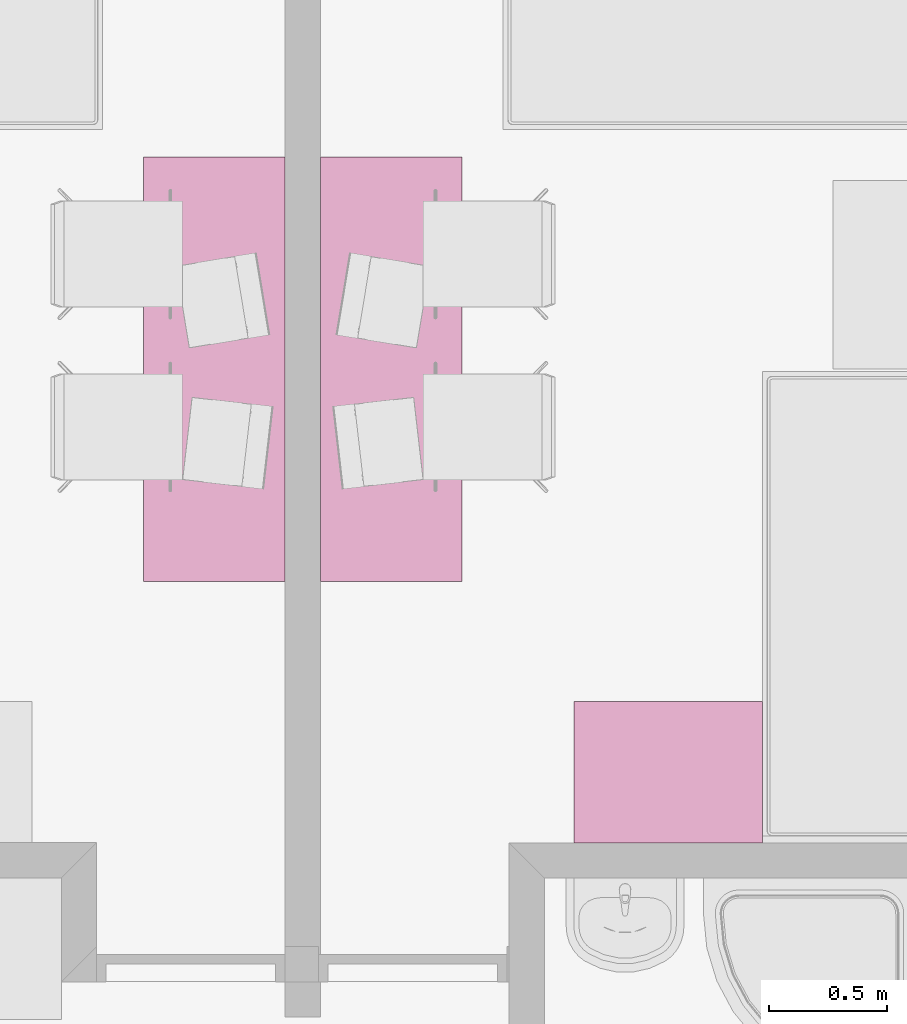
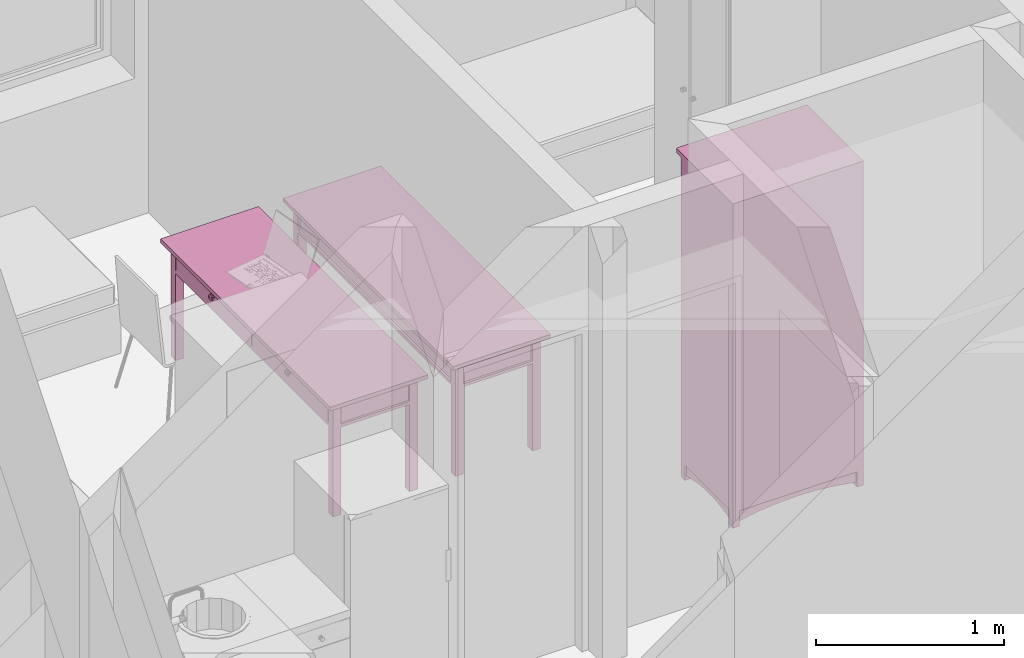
# One storey, part 140 of 172: 3 furnishings.
"""IFC2X3 building model written with IfcOpenShell, lengths in millimetres."""

from ifc_helpers import new_model, entity, si_unit, converted_unit, money_unit, direction, frame, origin_with_axes, place, context, subcontext, project, spatial, faceted_brep, source, transform, mapped, material, material_list, type_object, element, save


model = new_model("IFC2X3")

# Units and contexts
model_context = context("Model", 3, precision=1e-05, world=origin_with_axes(), true_north=direction((0.0, 1.0)))
body_context = subcontext(model_context, "Body", "Model", "MODEL_VIEW")
ifc_project = project(units=[si_unit("LENGTHUNIT", "METRE", prefix="MILLI"), si_unit("AREAUNIT", "SQUARE_METRE"), si_unit("VOLUMEUNIT", "CUBIC_METRE"), converted_unit("PLANEANGLEUNIT", "DEGREE", entity("IfcPlaneAngleMeasure", 0.0174532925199), si_unit("PLANEANGLEUNIT", "RADIAN"), dimensions=[0, 0, 0, 0, 0, 0, 0]), si_unit("SOLIDANGLEUNIT", "STERADIAN"), money_unit("USD"), converted_unit("TIMEUNIT", "Year", entity("IfcTimeMeasure", 31556926.0), si_unit("TIMEUNIT", "SECOND"), dimensions=[0, 0, 0, 0, 0, 0, 0]), si_unit("MASSUNIT", "GRAM"), si_unit("THERMODYNAMICTEMPERATUREUNIT", "DEGREE_CELSIUS"), si_unit("LUMINOUSINTENSITYUNIT", "LUMEN")], contexts=[model_context])

# Site, building, storey
site_placement = place(None, origin_with_axes())
site = spatial("IfcSite", under=ifc_project, at=site_placement, Name="Site", CompositionType="ELEMENT")
building_placement = place(site_placement, origin_with_axes())
building = spatial("IfcBuilding", under=site, at=building_placement, Name="Building", CompositionType="ELEMENT")
storey_placement = place(building_placement, frame((0.0, 0.0, 3200.0), z_axis=(0.0, 0.0, 1.0), x_axis=(1.0, 0.0, 0.0)))
storey = spatial("IfcBuildingStorey", under=building, at=storey_placement, Name="3KORRUS", CompositionType="ELEMENT", Elevation=3200.0)

# Furnishings
ifc_material = material(Name="Background")
ifc_material_list = material_list([ifc_material])
furnishing_element_type_1 = type_object("IfcFurnishingElementType", Name="Cupboard 19")
shared_shape_1 = source(origin_with_axes(), body_context, "Body", "Brep", [
    faceted_brep([(-780.0, 600.0, 120.0), (-780.0, 580.0, 120.0), (-780.0, 580.0, 2050.0), (-780.0, 600.0, 2050.0), (-20.0, 600.0, 120.0), (-20.0, 580.0, 120.0), (-20.0, 580.0, 2050.0), (-20.0, 600.0, 2050.0)], [[[0, 1, 2, 3]], [[0, 4, 5, 1]], [[1, 5, 6, 2]], [[3, 2, 6, 7]], [[4, 0, 3, 7]], [[5, 4, 7, 6]]]),
    faceted_brep([(0.0, 50.0, 100.0), (-20.0, 50.0, 100.0), (-20.0, 600.0, 100.0), (0.0, 600.0, 100.0), (0.0, 50.0, 2070.0), (-20.0, 50.0, 2070.0), (-20.0, 600.0, 2070.0), (0.0, 600.0, 2070.0)], [[[0, 1, 2, 3]], [[1, 0, 4, 5]], [[2, 1, 5, 6]], [[3, 2, 6, 7]], [[0, 3, 7, 4]], [[5, 4, 7, 6]]]),
    faceted_brep([(-780.0, 50.0, 100.0), (-800.0, 50.0, 100.0), (-800.0, 600.0, 100.0), (-780.0, 600.0, 100.0), (-780.0, 50.0, 2070.0), (-800.0, 50.0, 2070.0), (-800.0, 600.0, 2070.0), (-780.0, 600.0, 2070.0)], [[[0, 1, 2, 3]], [[1, 0, 4, 5]], [[2, 1, 5, 6]], [[3, 2, 6, 7]], [[0, 3, 7, 4]], [[5, 4, 7, 6]]]),
    faceted_brep([(-20.0, 50.0, 100.0), (-780.0, 50.0, 100.0), (-780.0, 600.0, 100.0), (-20.0, 600.0, 100.0), (-20.0, 50.0, 120.0), (-780.0, 50.0, 120.0), (-780.0, 600.0, 120.0), (-20.0, 600.0, 120.0)], [[[0, 1, 2, 3]], [[1, 0, 4, 5]], [[2, 1, 5, 6]], [[3, 2, 6, 7]], [[0, 3, 7, 4]], [[5, 4, 7, 6]]]),
    faceted_brep([(-20.0, 50.0, 2050.0), (-780.0, 50.0, 2050.0), (-780.0, 600.0, 2050.0), (-20.0, 600.0, 2050.0), (-20.0, 50.0, 2070.0), (-780.0, 50.0, 2070.0), (-780.0, 600.0, 2070.0), (-20.0, 600.0, 2070.0)], [[[0, 1, 2, 3]], [[1, 0, 4, 5]], [[2, 1, 5, 6]], [[3, 2, 6, 7]], [[0, 3, 7, 4]], [[5, 4, 7, 6]]]),
    faceted_brep([(0.0, 600.0, 2070.0), (0.0, 600.0, 2100.0), (0.0, 0.0, 2100.0), (0.0, 0.0, 2070.0), (-800.0, 600.0, 2070.0), (-800.0, 600.0, 2100.0), (-800.0, 0.0, 2100.0), (-800.0, 0.0, 2070.0)], [[[0, 1, 2, 3]], [[4, 5, 1, 0]], [[1, 5, 6, 2]], [[3, 2, 6, 7]], [[0, 3, 7, 4]], [[7, 6, 5, 4]]]),
    faceted_brep([(-760.0, 590.0, 25.0), (-640.962, 590.0, 45.8), (-640.962, 570.0, 45.8), (-760.0, 570.0, 25.0), (-760.0, 590.0, 100.0), (-40.0, 590.0, 100.0), (-40.0, 590.0, 25.0), (-159.038, 590.0, 45.8), (-279.23, 590.0, 58.32), (-400.0, 590.0, 62.5), (-520.77, 590.0, 58.32), (-520.77, 570.0, 58.32), (-400.0, 570.0, 62.5), (-279.23, 570.0, 58.32), (-159.038, 570.0, 45.8), (-40.0, 570.0, 25.0), (-40.0, 570.0, 100.0), (-760.0, 570.0, 100.0)], [[[0, 1, 2, 3]], [[0, 4, 5, 6, 7, 8, 9, 10, 1]], [[1, 10, 11, 2]], [[3, 2, 11, 12, 13, 14, 15, 16, 17]], [[4, 0, 3, 17]], [[5, 4, 17, 16]], [[6, 5, 16, 15]], [[7, 6, 15, 14]], [[8, 7, 14, 13]], [[9, 8, 13, 12]], [[10, 9, 12, 11]]]),
    faceted_brep([(-760.0, 80.0, 25.0), (-640.962, 80.0, 45.8), (-640.962, 60.0, 45.8), (-760.0, 60.0, 25.0), (-760.0, 80.0, 100.0), (-40.0, 80.0, 100.0), (-40.0, 80.0, 25.0), (-159.038, 80.0, 45.8), (-279.23, 80.0, 58.32), (-400.0, 80.0, 62.5), (-520.77, 80.0, 58.32), (-520.77, 60.0, 58.32), (-400.0, 60.0, 62.5), (-279.23, 60.0, 58.32), (-159.038, 60.0, 45.8), (-40.0, 60.0, 25.0), (-40.0, 60.0, 100.0), (-760.0, 60.0, 100.0)], [[[0, 1, 2, 3]], [[0, 4, 5, 6, 7, 8, 9, 10, 1]], [[1, 10, 11, 2]], [[3, 2, 11, 12, 13, 14, 15, 16, 17]], [[4, 0, 3, 17]], [[5, 4, 17, 16]], [[6, 5, 16, 15]], [[7, 6, 15, 14]], [[8, 7, 14, 13]], [[9, 8, 13, 12]], [[10, 9, 12, 11]]]),
    faceted_brep([(-790.0, 90.0, 25.0), (-790.0, 141.266, 38.072), (-770.0, 141.266, 38.072), (-770.0, 90.0, 25.0), (-790.0, 90.0, 100.0), (-790.0, 560.0, 100.0), (-790.0, 560.0, 25.0), (-790.0, 508.734, 38.072), (-790.0, 456.752, 47.92), (-790.0, 404.257, 54.508), (-790.0, 351.453, 57.808), (-790.0, 298.547, 57.808), (-790.0, 245.743, 54.508), (-790.0, 193.248, 47.92), (-770.0, 193.248, 47.92), (-770.0, 245.743, 54.508), (-770.0, 298.547, 57.808), (-770.0, 351.453, 57.808), (-770.0, 404.257, 54.508), (-770.0, 456.752, 47.92), (-770.0, 508.734, 38.072), (-770.0, 560.0, 25.0), (-770.0, 560.0, 100.0), (-770.0, 90.0, 100.0)], [[[0, 1, 2, 3]], [[0, 4, 5, 6, 7, 8, 9, 10, 11, 12, 13, 1]], [[1, 13, 14, 2]], [[3, 2, 14, 15, 16, 17, 18, 19, 20, 21, 22, 23]], [[4, 0, 3, 23]], [[5, 4, 23, 22]], [[6, 5, 22, 21]], [[7, 6, 21, 20]], [[8, 7, 20, 19]], [[9, 8, 19, 18]], [[10, 9, 18, 17]], [[11, 10, 17, 16]], [[12, 11, 16, 15]], [[13, 12, 15, 14]]]),
    faceted_brep([(-30.0, 90.0, 25.0), (-30.0, 141.266, 38.072), (-10.0, 141.266, 38.072), (-10.0, 90.0, 25.0), (-30.0, 90.0, 100.0), (-30.0, 560.0, 100.0), (-30.0, 560.0, 25.0), (-30.0, 508.734, 38.072), (-30.0, 456.752, 47.92), (-30.0, 404.257, 54.508), (-30.0, 351.453, 57.808), (-30.0, 298.547, 57.808), (-30.0, 245.743, 54.508), (-30.0, 193.248, 47.92), (-10.0, 193.248, 47.92), (-10.0, 245.743, 54.508), (-10.0, 298.547, 57.808), (-10.0, 351.453, 57.808), (-10.0, 404.257, 54.508), (-10.0, 456.752, 47.92), (-10.0, 508.734, 38.072), (-10.0, 560.0, 25.0), (-10.0, 560.0, 100.0), (-10.0, 90.0, 100.0)], [[[0, 1, 2, 3]], [[0, 4, 5, 6, 7, 8, 9, 10, 11, 12, 13, 1]], [[1, 13, 14, 2]], [[3, 2, 14, 15, 16, 17, 18, 19, 20, 21, 22, 23]], [[4, 0, 3, 23]], [[5, 4, 23, 22]], [[6, 5, 22, 21]], [[7, 6, 21, 20]], [[8, 7, 20, 19]], [[9, 8, 19, 18]], [[10, 9, 18, 17]], [[11, 10, 17, 16]], [[12, 11, 16, 15]], [[13, 12, 15, 14]]]),
    faceted_brep([(-760.0, 560.0, 0.0), (-760.0, 600.0, 0.0), (-760.0, 600.0, 100.0), (-760.0, 560.0, 100.0), (-800.0, 560.0, 0.0), (-800.0, 600.0, 0.0), (-800.0, 600.0, 100.0), (-800.0, 560.0, 100.0)], [[[0, 1, 2, 3]], [[0, 4, 5, 1]], [[1, 5, 6, 2]], [[3, 2, 6, 7]], [[4, 0, 3, 7]], [[5, 4, 7, 6]]]),
    faceted_brep([(0.0, 560.0, 0.0), (0.0, 600.0, 0.0), (0.0, 600.0, 100.0), (0.0, 560.0, 100.0), (-40.0, 560.0, 0.0), (-40.0, 600.0, 0.0), (-40.0, 600.0, 100.0), (-40.0, 560.0, 100.0)], [[[0, 1, 2, 3]], [[0, 4, 5, 1]], [[1, 5, 6, 2]], [[3, 2, 6, 7]], [[4, 0, 3, 7]], [[5, 4, 7, 6]]]),
    faceted_brep([(-760.0, 50.0, 0.0), (-760.0, 90.0, 0.0), (-760.0, 90.0, 100.0), (-760.0, 50.0, 100.0), (-800.0, 50.0, 0.0), (-800.0, 90.0, 0.0), (-800.0, 90.0, 100.0), (-800.0, 50.0, 100.0)], [[[0, 1, 2, 3]], [[0, 4, 5, 1]], [[1, 5, 6, 2]], [[3, 2, 6, 7]], [[4, 0, 3, 7]], [[5, 4, 7, 6]]]),
    faceted_brep([(0.0, 50.0, 0.0), (0.0, 90.0, 0.0), (0.0, 90.0, 100.0), (0.0, 50.0, 100.0), (-40.0, 50.0, 0.0), (-40.0, 90.0, 0.0), (-40.0, 90.0, 100.0), (-40.0, 50.0, 100.0)], [[[0, 1, 2, 3]], [[0, 4, 5, 1]], [[1, 5, 6, 2]], [[3, 2, 6, 7]], [[4, 0, 3, 7]], [[5, 4, 7, 6]]]),
    faceted_brep([(-780.0, 580.0, 587.5), (-780.0, 50.0, 587.5), (-780.0, 50.0, 607.5), (-780.0, 580.0, 607.5), (-20.0, 580.0, 587.5), (-20.0, 50.0, 587.5), (-20.0, 50.0, 607.5), (-20.0, 580.0, 607.5)], [[[0, 1, 2, 3]], [[0, 4, 5, 1]], [[1, 5, 6, 2]], [[3, 2, 6, 7]], [[4, 0, 3, 7]], [[5, 4, 7, 6]]]),
    faceted_brep([(-780.0, 580.0, 1075.0), (-780.0, 50.0, 1075.0), (-780.0, 50.0, 1095.0), (-780.0, 580.0, 1095.0), (-20.0, 580.0, 1075.0), (-20.0, 50.0, 1075.0), (-20.0, 50.0, 1095.0), (-20.0, 580.0, 1095.0)], [[[0, 1, 2, 3]], [[0, 4, 5, 1]], [[1, 5, 6, 2]], [[3, 2, 6, 7]], [[4, 0, 3, 7]], [[5, 4, 7, 6]]]),
    faceted_brep([(-780.0, 580.0, 1562.5), (-780.0, 50.0, 1562.5), (-780.0, 50.0, 1582.5), (-780.0, 580.0, 1582.5), (-20.0, 580.0, 1562.5), (-20.0, 50.0, 1562.5), (-20.0, 50.0, 1582.5), (-20.0, 580.0, 1582.5)], [[[0, 1, 2, 3]], [[0, 4, 5, 1]], [[1, 5, 6, 2]], [[3, 2, 6, 7]], [[4, 0, 3, 7]], [[5, 4, 7, 6]]]),
    faceted_brep([(-789.5, 50.0, 110.5), (-789.5, 50.0, 2059.5), (-400.5, 50.0, 2059.5), (-400.5, 50.0, 110.5), (-789.5, 40.0, 110.5), (-789.5, 40.0, 2059.5), (-400.5, 40.0, 2059.5), (-400.5, 40.0, 110.5), (-779.5, 30.0, 120.5), (-779.5, 30.0, 2049.5), (-410.5, 30.0, 2049.5), (-410.5, 30.0, 120.5)], [[[0, 1, 2, 3]], [[1, 0, 4, 5]], [[2, 1, 5, 6]], [[3, 2, 6, 7]], [[0, 3, 7, 4]], [[5, 4, 8, 9]], [[6, 5, 9, 10]], [[7, 6, 10, 11]], [[4, 7, 11, 8]], [[10, 9, 8, 11]]]),
    faceted_brep([(-399.5, 50.0, 110.5), (-399.5, 50.0, 2059.5), (-10.5, 50.0, 2059.5), (-10.5, 50.0, 110.5), (-399.5, 40.0, 110.5), (-399.5, 40.0, 2059.5), (-10.5, 40.0, 2059.5), (-10.5, 40.0, 110.5), (-389.5, 30.0, 120.5), (-389.5, 30.0, 2049.5), (-20.5, 30.0, 2049.5), (-20.5, 30.0, 120.5)], [[[0, 1, 2, 3]], [[1, 0, 4, 5]], [[2, 1, 5, 6]], [[3, 2, 6, 7]], [[0, 3, 7, 4]], [[5, 4, 8, 9]], [[6, 5, 9, 10]], [[7, 6, 10, 11]], [[4, 7, 11, 8]], [[10, 9, 8, 11]]]),
    faceted_brep([(-339.608, 30.0, 954.0), (-344.0, 30.0, 949.608), (-350.0, 30.0, 948.0), (-356.0, 30.0, 949.608), (-360.392, 30.0, 954.0), (-362.0, 30.0, 960.0), (-360.392, 30.0, 966.0), (-356.0, 30.0, 970.392), (-350.0, 30.0, 972.0), (-344.0, 30.0, 970.392), (-339.608, 30.0, 966.0), (-338.0, 30.0, 960.0), (-339.608, 5.0, 954.0), (-344.0, 5.0, 949.608), (-350.0, 5.0, 948.0), (-356.0, 5.0, 949.608), (-360.392, 5.0, 954.0), (-362.0, 5.0, 960.0), (-360.392, 5.0, 966.0), (-356.0, 5.0, 970.392), (-350.0, 5.0, 972.0), (-344.0, 5.0, 970.392), (-339.608, 5.0, 966.0), (-338.0, 5.0, 960.0)], [[[0, 1, 2, 3, 4, 5, 6, 7, 8, 9, 10, 11]], [[1, 0, 12, 13]], [[2, 1, 13, 14]], [[3, 2, 14, 15]], [[4, 3, 15, 16]], [[5, 4, 16, 17]], [[6, 5, 17, 18]], [[7, 6, 18, 19]], [[8, 7, 19, 20]], [[9, 8, 20, 21]], [[10, 9, 21, 22]], [[11, 10, 22, 23]], [[0, 11, 23, 12]], [[12, 23, 22, 21, 20, 19, 18, 17, 16, 15, 14, 13]]]),
    faceted_brep([(-460.392, 30.0, 954.0), (-462.0, 30.0, 960.0), (-460.392, 30.0, 966.0), (-456.0, 30.0, 970.392), (-450.0, 30.0, 972.0), (-444.0, 30.0, 970.392), (-439.608, 30.0, 966.0), (-438.0, 30.0, 960.0), (-439.608, 30.0, 954.0), (-444.0, 30.0, 949.608), (-450.0, 30.0, 948.0), (-456.0, 30.0, 949.608), (-460.392, 5.0, 954.0), (-462.0, 5.0, 960.0), (-460.392, 5.0, 966.0), (-456.0, 5.0, 970.392), (-450.0, 5.0, 972.0), (-444.0, 5.0, 970.392), (-439.608, 5.0, 966.0), (-438.0, 5.0, 960.0), (-439.608, 5.0, 954.0), (-444.0, 5.0, 949.608), (-450.0, 5.0, 948.0), (-456.0, 5.0, 949.608)], [[[0, 1, 2, 3, 4, 5, 6, 7, 8, 9, 10, 11]], [[0, 12, 13, 1]], [[1, 13, 14, 2]], [[2, 14, 15, 3]], [[3, 15, 16, 4]], [[4, 16, 17, 5]], [[5, 17, 18, 6]], [[6, 18, 19, 7]], [[7, 19, 20, 8]], [[8, 20, 21, 9]], [[9, 21, 22, 10]], [[10, 22, 23, 11]], [[11, 23, 12, 0]], [[12, 23, 22, 21, 20, 19, 18, 17, 16, 15, 14, 13]]]),
])
furnishing_1_placement = place(storey_placement, frame((4009.70329669, -8617.37850445, 0.0), z_axis=(0.0, 0.0, 1.0), x_axis=(-1.0, 0.0, 0.0)))
element("IfcFurnishingElement", 1, at=furnishing_1_placement, inside=storey, type_object=furnishing_element_type_1, material=ifc_material_list, Name="FU - 014", context=body_context, shape_type="MappedRepresentation", body=[
    mapped(shared_shape_1, transform((0.0, 0.0, 0.0))),
])
furnishing_element_type_2 = type_object("IfcFurnishingElementType", Name="Rectangular Table 01 19")
shared_shape_2 = source(origin_with_axes(), body_context, "Body", "Brep", [
    faceted_brep([(-90.0, 40.0, 0.0), (-90.0, 90.0, 0.0), (-40.0, 90.0, 0.0), (-40.0, 40.0, 0.0), (-90.0, 40.0, 725.0), (-90.0, 90.0, 725.0), (-40.0, 90.0, 725.0), (-40.0, 40.0, 725.0)], [[[0, 1, 2, 3]], [[0, 4, 5, 1]], [[1, 5, 6, 2]], [[2, 6, 7, 3]], [[3, 7, 4, 0]], [[7, 6, 5, 4]]]),
    faceted_brep([(-1760.0, 40.0, 0.0), (-1760.0, 90.0, 0.0), (-1710.0, 90.0, 0.0), (-1710.0, 40.0, 0.0), (-1760.0, 40.0, 725.0), (-1760.0, 90.0, 725.0), (-1710.0, 90.0, 725.0), (-1710.0, 40.0, 725.0)], [[[0, 1, 2, 3]], [[0, 4, 5, 1]], [[1, 5, 6, 2]], [[2, 6, 7, 3]], [[3, 7, 4, 0]], [[7, 6, 5, 4]]]),
    faceted_brep([(-90.0, 510.0, 0.0), (-90.0, 560.0, 0.0), (-40.0, 560.0, 0.0), (-40.0, 510.0, 0.0), (-90.0, 510.0, 725.0), (-90.0, 560.0, 725.0), (-40.0, 560.0, 725.0), (-40.0, 510.0, 725.0)], [[[0, 1, 2, 3]], [[0, 4, 5, 1]], [[1, 5, 6, 2]], [[2, 6, 7, 3]], [[3, 7, 4, 0]], [[7, 6, 5, 4]]]),
    faceted_brep([(-1760.0, 510.0, 0.0), (-1760.0, 560.0, 0.0), (-1710.0, 560.0, 0.0), (-1710.0, 510.0, 0.0), (-1760.0, 510.0, 725.0), (-1760.0, 560.0, 725.0), (-1710.0, 560.0, 725.0), (-1710.0, 510.0, 725.0)], [[[0, 1, 2, 3]], [[0, 4, 5, 1]], [[1, 5, 6, 2]], [[2, 6, 7, 3]], [[3, 7, 4, 0]], [[7, 6, 5, 4]]]),
    faceted_brep([(-1760.0, 40.0, 565.0), (-1760.0, 560.0, 565.0), (-40.0, 560.0, 565.0), (-40.0, 40.0, 565.0), (-1760.0, 40.0, 585.0), (-1760.0, 560.0, 585.0), (-40.0, 560.0, 585.0), (-40.0, 40.0, 585.0)], [[[0, 1, 2, 3]], [[0, 4, 5, 1]], [[1, 5, 6, 2]], [[2, 6, 7, 3]], [[3, 7, 4, 0]], [[7, 6, 5, 4]]]),
    faceted_brep([(-1710.0, 52.5, 585.0), (-1710.0, 77.5, 585.0), (-90.0, 77.5, 585.0), (-90.0, 52.5, 585.0), (-1710.0, 52.5, 745.0), (-1710.0, 77.5, 745.0), (-90.0, 77.5, 745.0), (-90.0, 52.5, 745.0)], [[[0, 1, 2, 3]], [[0, 4, 5, 1]], [[1, 5, 6, 2]], [[2, 6, 7, 3]], [[3, 7, 4, 0]], [[7, 6, 5, 4]]]),
    faceted_brep([(-77.5, 90.0, 585.0), (-77.5, 510.0, 585.0), (-52.5, 510.0, 585.0), (-52.5, 90.0, 585.0), (-77.5, 90.0, 745.0), (-77.5, 510.0, 745.0), (-52.5, 510.0, 745.0), (-52.5, 90.0, 745.0)], [[[0, 1, 2, 3]], [[0, 4, 5, 1]], [[1, 5, 6, 2]], [[2, 6, 7, 3]], [[3, 7, 4, 0]], [[7, 6, 5, 4]]]),
    faceted_brep([(-90.0, 547.5, 585.0), (-90.0, 522.5, 585.0), (-1710.0, 522.5, 585.0), (-1710.0, 547.5, 585.0), (-90.0, 547.5, 745.0), (-90.0, 522.5, 745.0), (-1710.0, 522.5, 745.0), (-1710.0, 547.5, 745.0)], [[[0, 1, 2, 3]], [[0, 4, 5, 1]], [[1, 5, 6, 2]], [[2, 6, 7, 3]], [[3, 7, 4, 0]], [[7, 6, 5, 4]]]),
    faceted_brep([(-1722.5, 510.0, 585.0), (-1722.5, 90.0, 585.0), (-1747.5, 90.0, 585.0), (-1747.5, 510.0, 585.0), (-1722.5, 510.0, 745.0), (-1722.5, 90.0, 745.0), (-1747.5, 90.0, 745.0), (-1747.5, 510.0, 745.0)], [[[0, 1, 2, 3]], [[0, 4, 5, 1]], [[1, 5, 6, 2]], [[2, 6, 7, 3]], [[3, 7, 4, 0]], [[7, 6, 5, 4]]]),
    faceted_brep([(-897.5, 40.0, 585.0), (-897.5, 60.0, 585.0), (-95.0, 60.0, 585.0), (-95.0, 40.0, 585.0), (-897.5, 40.0, 745.0), (-897.5, 60.0, 745.0), (-95.0, 60.0, 745.0), (-95.0, 40.0, 745.0)], [[[0, 1, 2, 3]], [[0, 4, 5, 1]], [[1, 5, 6, 2]], [[2, 6, 7, 3]], [[3, 7, 4, 0]], [[7, 6, 5, 4]]]),
    faceted_brep([(-1705.0, 40.0, 585.0), (-1705.0, 60.0, 585.0), (-902.5, 60.0, 585.0), (-902.5, 40.0, 585.0), (-1705.0, 40.0, 745.0), (-1705.0, 60.0, 745.0), (-902.5, 60.0, 745.0), (-902.5, 40.0, 745.0)], [[[0, 1, 2, 3]], [[0, 4, 5, 1]], [[1, 5, 6, 2]], [[2, 6, 7, 3]], [[3, 7, 4, 0]], [[7, 6, 5, 4]]]),
    faceted_brep([(-504.91, 40.0, 660.0), (-506.25, 40.0, 665.0), (-504.91, 40.0, 670.0), (-501.25, 40.0, 673.66), (-496.25, 40.0, 675.0), (-491.25, 40.0, 673.66), (-487.59, 40.0, 670.0), (-486.25, 40.0, 665.0), (-487.59, 40.0, 660.0), (-491.25, 40.0, 656.34), (-496.25, 40.0, 655.0), (-501.25, 40.0, 656.34), (-504.91, 25.0, 660.0), (-506.25, 25.0, 665.0), (-504.91, 25.0, 670.0), (-501.25, 25.0, 673.66), (-496.25, 25.0, 675.0), (-491.25, 25.0, 673.66), (-487.59, 25.0, 670.0), (-486.25, 25.0, 665.0), (-487.59, 25.0, 660.0), (-491.25, 25.0, 656.34), (-496.25, 25.0, 655.0), (-501.25, 25.0, 656.34)], [[[0, 1, 2, 3, 4, 5, 6, 7, 8, 9, 10, 11]], [[0, 12, 13, 1]], [[1, 13, 14, 2]], [[2, 14, 15, 3]], [[3, 15, 16, 4]], [[4, 16, 17, 5]], [[5, 17, 18, 6]], [[6, 18, 19, 7]], [[7, 19, 20, 8]], [[8, 20, 21, 9]], [[9, 21, 22, 10]], [[10, 22, 23, 11]], [[11, 23, 12, 0]], [[12, 23, 22, 21, 20, 19, 18, 17, 16, 15, 14, 13]]]),
    faceted_brep([(-506.25, 12.01, 665.0), (-504.91, 12.01, 660.0), (-496.25, 10.0, 665.0), (-513.571, 17.5, 665.0), (-511.25, 17.5, 656.34), (-501.25, 12.01, 656.34), (-504.91, 12.01, 670.0), (-516.25, 25.0, 665.0), (-513.571, 25.0, 655.0), (-504.91, 17.5, 650.0), (-511.25, 17.5, 673.66), (-496.25, 12.01, 655.0), (-501.25, 12.01, 673.66), (-513.571, 25.0, 675.0), (-506.25, 25.0, 682.321), (-496.25, 25.0, 685.0), (-486.25, 25.0, 682.321), (-478.929, 25.0, 675.0), (-476.25, 25.0, 665.0), (-478.929, 25.0, 655.0), (-486.25, 25.0, 647.679), (-496.25, 25.0, 645.0), (-506.25, 25.0, 647.679), (-496.25, 17.5, 647.679), (-504.91, 17.5, 680.0), (-491.25, 12.01, 656.34), (-496.25, 12.01, 675.0), (-496.25, 17.5, 682.321), (-487.59, 17.5, 680.0), (-481.25, 17.5, 673.66), (-478.929, 17.5, 665.0), (-481.25, 17.5, 656.34), (-487.59, 17.5, 650.0), (-487.59, 12.01, 660.0), (-491.25, 12.01, 673.66), (-487.59, 12.01, 670.0), (-486.25, 12.01, 665.0)], [[[0, 1, 2]], [[3, 4, 1, 0]], [[1, 5, 2]], [[6, 0, 2]], [[7, 8, 4, 3]], [[4, 9, 5, 1]], [[10, 3, 0, 6]], [[5, 11, 2]], [[12, 6, 2]], [[8, 7, 13, 14, 15, 16, 17, 18, 19, 20, 21, 22]], [[8, 22, 9, 4]], [[13, 7, 3, 10]], [[9, 23, 11, 5]], [[24, 10, 6, 12]], [[11, 25, 2]], [[26, 12, 2]], [[14, 13, 10, 24]], [[15, 14, 24, 27]], [[16, 15, 27, 28]], [[17, 16, 28, 29]], [[18, 17, 29, 30]], [[19, 18, 30, 31]], [[20, 19, 31, 32]], [[21, 20, 32, 23]], [[22, 21, 23, 9]], [[23, 32, 25, 11]], [[27, 24, 12, 26]], [[25, 33, 2]], [[34, 26, 2]], [[28, 27, 26, 34]], [[29, 28, 34, 35]], [[30, 29, 35, 36]], [[31, 30, 36, 33]], [[32, 31, 33, 25]], [[33, 36, 2]], [[35, 34, 2]], [[36, 35, 2]]]),
    faceted_brep([(-1312.41, 40.0, 660.0), (-1313.75, 40.0, 665.0), (-1312.41, 40.0, 670.0), (-1308.75, 40.0, 673.66), (-1303.75, 40.0, 675.0), (-1298.75, 40.0, 673.66), (-1295.09, 40.0, 670.0), (-1293.75, 40.0, 665.0), (-1295.09, 40.0, 660.0), (-1298.75, 40.0, 656.34), (-1303.75, 40.0, 655.0), (-1308.75, 40.0, 656.34), (-1312.41, 25.0, 660.0), (-1313.75, 25.0, 665.0), (-1312.41, 25.0, 670.0), (-1308.75, 25.0, 673.66), (-1303.75, 25.0, 675.0), (-1298.75, 25.0, 673.66), (-1295.09, 25.0, 670.0), (-1293.75, 25.0, 665.0), (-1295.09, 25.0, 660.0), (-1298.75, 25.0, 656.34), (-1303.75, 25.0, 655.0), (-1308.75, 25.0, 656.34)], [[[0, 1, 2, 3, 4, 5, 6, 7, 8, 9, 10, 11]], [[0, 12, 13, 1]], [[1, 13, 14, 2]], [[2, 14, 15, 3]], [[3, 15, 16, 4]], [[4, 16, 17, 5]], [[5, 17, 18, 6]], [[6, 18, 19, 7]], [[7, 19, 20, 8]], [[8, 20, 21, 9]], [[9, 21, 22, 10]], [[10, 22, 23, 11]], [[11, 23, 12, 0]], [[12, 23, 22, 21, 20, 19, 18, 17, 16, 15, 14, 13]]]),
    faceted_brep([(-1313.75, 12.01, 665.0), (-1312.41, 12.01, 660.0), (-1303.75, 10.0, 665.0), (-1321.071, 17.5, 665.0), (-1318.75, 17.5, 656.34), (-1308.75, 12.01, 656.34), (-1312.41, 12.01, 670.0), (-1323.75, 25.0, 665.0), (-1321.071, 25.0, 655.0), (-1312.41, 17.5, 650.0), (-1318.75, 17.5, 673.66), (-1303.75, 12.01, 655.0), (-1308.75, 12.01, 673.66), (-1321.071, 25.0, 675.0), (-1313.75, 25.0, 682.321), (-1303.75, 25.0, 685.0), (-1293.75, 25.0, 682.321), (-1286.429, 25.0, 675.0), (-1283.75, 25.0, 665.0), (-1286.429, 25.0, 655.0), (-1293.75, 25.0, 647.679), (-1303.75, 25.0, 645.0), (-1313.75, 25.0, 647.679), (-1303.75, 17.5, 647.679), (-1312.41, 17.5, 680.0), (-1298.75, 12.01, 656.34), (-1303.75, 12.01, 675.0), (-1303.75, 17.5, 682.321), (-1295.09, 17.5, 680.0), (-1288.75, 17.5, 673.66), (-1286.429, 17.5, 665.0), (-1288.75, 17.5, 656.34), (-1295.09, 17.5, 650.0), (-1295.09, 12.01, 660.0), (-1298.75, 12.01, 673.66), (-1295.09, 12.01, 670.0), (-1293.75, 12.01, 665.0)], [[[0, 1, 2]], [[3, 4, 1, 0]], [[1, 5, 2]], [[6, 0, 2]], [[7, 8, 4, 3]], [[4, 9, 5, 1]], [[10, 3, 0, 6]], [[5, 11, 2]], [[12, 6, 2]], [[8, 7, 13, 14, 15, 16, 17, 18, 19, 20, 21, 22]], [[8, 22, 9, 4]], [[13, 7, 3, 10]], [[9, 23, 11, 5]], [[24, 10, 6, 12]], [[11, 25, 2]], [[26, 12, 2]], [[14, 13, 10, 24]], [[15, 14, 24, 27]], [[16, 15, 27, 28]], [[17, 16, 28, 29]], [[18, 17, 29, 30]], [[19, 18, 30, 31]], [[20, 19, 31, 32]], [[21, 20, 32, 23]], [[22, 21, 23, 9]], [[23, 32, 25, 11]], [[27, 24, 12, 26]], [[25, 33, 2]], [[34, 26, 2]], [[28, 27, 26, 34]], [[29, 28, 34, 35]], [[30, 29, 35, 36]], [[31, 30, 36, 33]], [[32, 31, 33, 25]], [[33, 36, 2]], [[35, 34, 2]], [[36, 35, 2]]]),
    faceted_brep([(-1800.0, 0.0, 725.0), (-1800.0, 600.0, 725.0), (0.0, 600.0, 725.0), (0.0, 0.0, 725.0), (-1800.0, 0.0, 750.0), (-1800.0, 600.0, 750.0), (0.0, 600.0, 750.0), (0.0, 0.0, 750.0)], [[[0, 1, 2, 3]], [[0, 4, 5, 1]], [[1, 5, 6, 2]], [[2, 6, 7, 3]], [[3, 7, 4, 0]], [[7, 6, 5, 4]]]),
])
furnishing_2_placement = place(storey_placement, frame((3535.15011628, -6307.26955348, 0.0), z_axis=(0.0, 0.0, 1.0), x_axis=(0.0, 1.0, 0.0)))
element("IfcFurnishingElement", 2, at=furnishing_2_placement, inside=storey, type_object=furnishing_element_type_2, material=ifc_material_list, Name="FU - 011", context=body_context, shape_type="MappedRepresentation", body=[
    mapped(shared_shape_2, transform((0.0, 0.0, 0.0))),
])
shared_shape_3 = source(origin_with_axes(), body_context, "Body", "Brep", [
    faceted_brep([(90.0, 40.0, 0.0), (40.0, 40.0, 0.0), (40.0, 90.0, 0.0), (90.0, 90.0, 0.0), (90.0, 40.0, 725.0), (40.0, 40.0, 725.0), (40.0, 90.0, 725.0), (90.0, 90.0, 725.0)], [[[0, 1, 2, 3]], [[1, 0, 4, 5]], [[2, 1, 5, 6]], [[3, 2, 6, 7]], [[0, 3, 7, 4]], [[5, 4, 7, 6]]]),
    faceted_brep([(1760.0, 40.0, 0.0), (1710.0, 40.0, 0.0), (1710.0, 90.0, 0.0), (1760.0, 90.0, 0.0), (1760.0, 40.0, 725.0), (1710.0, 40.0, 725.0), (1710.0, 90.0, 725.0), (1760.0, 90.0, 725.0)], [[[0, 1, 2, 3]], [[1, 0, 4, 5]], [[2, 1, 5, 6]], [[3, 2, 6, 7]], [[0, 3, 7, 4]], [[5, 4, 7, 6]]]),
    faceted_brep([(90.0, 510.0, 0.0), (40.0, 510.0, 0.0), (40.0, 560.0, 0.0), (90.0, 560.0, 0.0), (90.0, 510.0, 725.0), (40.0, 510.0, 725.0), (40.0, 560.0, 725.0), (90.0, 560.0, 725.0)], [[[0, 1, 2, 3]], [[1, 0, 4, 5]], [[2, 1, 5, 6]], [[3, 2, 6, 7]], [[0, 3, 7, 4]], [[5, 4, 7, 6]]]),
    faceted_brep([(1760.0, 510.0, 0.0), (1710.0, 510.0, 0.0), (1710.0, 560.0, 0.0), (1760.0, 560.0, 0.0), (1760.0, 510.0, 725.0), (1710.0, 510.0, 725.0), (1710.0, 560.0, 725.0), (1760.0, 560.0, 725.0)], [[[0, 1, 2, 3]], [[1, 0, 4, 5]], [[2, 1, 5, 6]], [[3, 2, 6, 7]], [[0, 3, 7, 4]], [[5, 4, 7, 6]]]),
    faceted_brep([(1760.0, 40.0, 565.0), (40.0, 40.0, 565.0), (40.0, 560.0, 565.0), (1760.0, 560.0, 565.0), (1760.0, 40.0, 585.0), (40.0, 40.0, 585.0), (40.0, 560.0, 585.0), (1760.0, 560.0, 585.0)], [[[0, 1, 2, 3]], [[1, 0, 4, 5]], [[2, 1, 5, 6]], [[3, 2, 6, 7]], [[0, 3, 7, 4]], [[5, 4, 7, 6]]]),
    faceted_brep([(1710.0, 52.5, 585.0), (90.0, 52.5, 585.0), (90.0, 77.5, 585.0), (1710.0, 77.5, 585.0), (1710.0, 52.5, 745.0), (90.0, 52.5, 745.0), (90.0, 77.5, 745.0), (1710.0, 77.5, 745.0)], [[[0, 1, 2, 3]], [[1, 0, 4, 5]], [[2, 1, 5, 6]], [[3, 2, 6, 7]], [[0, 3, 7, 4]], [[5, 4, 7, 6]]]),
    faceted_brep([(77.5, 90.0, 585.0), (52.5, 90.0, 585.0), (52.5, 510.0, 585.0), (77.5, 510.0, 585.0), (77.5, 90.0, 745.0), (52.5, 90.0, 745.0), (52.5, 510.0, 745.0), (77.5, 510.0, 745.0)], [[[0, 1, 2, 3]], [[1, 0, 4, 5]], [[2, 1, 5, 6]], [[3, 2, 6, 7]], [[0, 3, 7, 4]], [[5, 4, 7, 6]]]),
    faceted_brep([(90.0, 547.5, 585.0), (1710.0, 547.5, 585.0), (1710.0, 522.5, 585.0), (90.0, 522.5, 585.0), (90.0, 547.5, 745.0), (1710.0, 547.5, 745.0), (1710.0, 522.5, 745.0), (90.0, 522.5, 745.0)], [[[0, 1, 2, 3]], [[1, 0, 4, 5]], [[2, 1, 5, 6]], [[3, 2, 6, 7]], [[0, 3, 7, 4]], [[5, 4, 7, 6]]]),
    faceted_brep([(1722.5, 510.0, 585.0), (1747.5, 510.0, 585.0), (1747.5, 90.0, 585.0), (1722.5, 90.0, 585.0), (1722.5, 510.0, 745.0), (1747.5, 510.0, 745.0), (1747.5, 90.0, 745.0), (1722.5, 90.0, 745.0)], [[[0, 1, 2, 3]], [[1, 0, 4, 5]], [[2, 1, 5, 6]], [[3, 2, 6, 7]], [[0, 3, 7, 4]], [[5, 4, 7, 6]]]),
    faceted_brep([(897.5, 40.0, 585.0), (95.0, 40.0, 585.0), (95.0, 60.0, 585.0), (897.5, 60.0, 585.0), (897.5, 40.0, 745.0), (95.0, 40.0, 745.0), (95.0, 60.0, 745.0), (897.5, 60.0, 745.0)], [[[0, 1, 2, 3]], [[1, 0, 4, 5]], [[2, 1, 5, 6]], [[3, 2, 6, 7]], [[0, 3, 7, 4]], [[5, 4, 7, 6]]]),
    faceted_brep([(1705.0, 40.0, 585.0), (902.5, 40.0, 585.0), (902.5, 60.0, 585.0), (1705.0, 60.0, 585.0), (1705.0, 40.0, 745.0), (902.5, 40.0, 745.0), (902.5, 60.0, 745.0), (1705.0, 60.0, 745.0)], [[[0, 1, 2, 3]], [[1, 0, 4, 5]], [[2, 1, 5, 6]], [[3, 2, 6, 7]], [[0, 3, 7, 4]], [[5, 4, 7, 6]]]),
    faceted_brep([(504.91, 40.0, 660.0), (501.25, 40.0, 656.34), (496.25, 40.0, 655.0), (491.25, 40.0, 656.34), (487.59, 40.0, 660.0), (486.25, 40.0, 665.0), (487.59, 40.0, 670.0), (491.25, 40.0, 673.66), (496.25, 40.0, 675.0), (501.25, 40.0, 673.66), (504.91, 40.0, 670.0), (506.25, 40.0, 665.0), (504.91, 25.0, 660.0), (501.25, 25.0, 656.34), (496.25, 25.0, 655.0), (491.25, 25.0, 656.34), (487.59, 25.0, 660.0), (486.25, 25.0, 665.0), (487.59, 25.0, 670.0), (491.25, 25.0, 673.66), (496.25, 25.0, 675.0), (501.25, 25.0, 673.66), (504.91, 25.0, 670.0), (506.25, 25.0, 665.0)], [[[0, 1, 2, 3, 4, 5, 6, 7, 8, 9, 10, 11]], [[1, 0, 12, 13]], [[2, 1, 13, 14]], [[3, 2, 14, 15]], [[4, 3, 15, 16]], [[5, 4, 16, 17]], [[6, 5, 17, 18]], [[7, 6, 18, 19]], [[8, 7, 19, 20]], [[9, 8, 20, 21]], [[10, 9, 21, 22]], [[11, 10, 22, 23]], [[0, 11, 23, 12]], [[12, 23, 22, 21, 20, 19, 18, 17, 16, 15, 14, 13]]]),
    faceted_brep([(506.25, 12.01, 665.0), (496.25, 10.0, 665.0), (504.91, 12.01, 660.0), (504.91, 12.01, 670.0), (501.25, 12.01, 656.34), (513.571, 17.5, 665.0), (511.25, 17.5, 656.34), (501.25, 12.01, 673.66), (511.25, 17.5, 673.66), (496.25, 12.01, 655.0), (504.91, 17.5, 650.0), (516.25, 25.0, 665.0), (513.571, 25.0, 655.0), (496.25, 12.01, 675.0), (504.91, 17.5, 680.0), (513.571, 25.0, 675.0), (491.25, 12.01, 656.34), (496.25, 17.5, 647.679), (506.25, 25.0, 647.679), (496.25, 25.0, 645.0), (486.25, 25.0, 647.679), (478.929, 25.0, 655.0), (476.25, 25.0, 665.0), (478.929, 25.0, 675.0), (486.25, 25.0, 682.321), (496.25, 25.0, 685.0), (506.25, 25.0, 682.321), (491.25, 12.01, 673.66), (496.25, 17.5, 682.321), (487.59, 12.01, 660.0), (487.59, 17.5, 650.0), (481.25, 17.5, 656.34), (478.929, 17.5, 665.0), (481.25, 17.5, 673.66), (487.59, 17.5, 680.0), (487.59, 12.01, 670.0), (486.25, 12.01, 665.0)], [[[0, 1, 2]], [[3, 1, 0]], [[2, 1, 4]], [[5, 0, 2, 6]], [[7, 1, 3]], [[8, 3, 0, 5]], [[4, 1, 9]], [[6, 2, 4, 10]], [[11, 5, 6, 12]], [[13, 1, 7]], [[14, 7, 3, 8]], [[15, 8, 5, 11]], [[9, 1, 16]], [[10, 4, 9, 17]], [[12, 6, 10, 18]], [[12, 18, 19, 20, 21, 22, 23, 24, 25, 26, 15, 11]], [[27, 1, 13]], [[28, 13, 7, 14]], [[26, 14, 8, 15]], [[16, 1, 29]], [[17, 9, 16, 30]], [[18, 10, 17, 19]], [[19, 17, 30, 20]], [[20, 30, 31, 21]], [[21, 31, 32, 22]], [[22, 32, 33, 23]], [[23, 33, 34, 24]], [[24, 34, 28, 25]], [[25, 28, 14, 26]], [[35, 1, 27]], [[34, 27, 13, 28]], [[29, 1, 36]], [[30, 16, 29, 31]], [[31, 29, 36, 32]], [[32, 36, 35, 33]], [[33, 35, 27, 34]], [[36, 1, 35]]]),
    faceted_brep([(1312.41, 40.0, 660.0), (1308.75, 40.0, 656.34), (1303.75, 40.0, 655.0), (1298.75, 40.0, 656.34), (1295.09, 40.0, 660.0), (1293.75, 40.0, 665.0), (1295.09, 40.0, 670.0), (1298.75, 40.0, 673.66), (1303.75, 40.0, 675.0), (1308.75, 40.0, 673.66), (1312.41, 40.0, 670.0), (1313.75, 40.0, 665.0), (1312.41, 25.0, 660.0), (1308.75, 25.0, 656.34), (1303.75, 25.0, 655.0), (1298.75, 25.0, 656.34), (1295.09, 25.0, 660.0), (1293.75, 25.0, 665.0), (1295.09, 25.0, 670.0), (1298.75, 25.0, 673.66), (1303.75, 25.0, 675.0), (1308.75, 25.0, 673.66), (1312.41, 25.0, 670.0), (1313.75, 25.0, 665.0)], [[[0, 1, 2, 3, 4, 5, 6, 7, 8, 9, 10, 11]], [[1, 0, 12, 13]], [[2, 1, 13, 14]], [[3, 2, 14, 15]], [[4, 3, 15, 16]], [[5, 4, 16, 17]], [[6, 5, 17, 18]], [[7, 6, 18, 19]], [[8, 7, 19, 20]], [[9, 8, 20, 21]], [[10, 9, 21, 22]], [[11, 10, 22, 23]], [[0, 11, 23, 12]], [[12, 23, 22, 21, 20, 19, 18, 17, 16, 15, 14, 13]]]),
    faceted_brep([(1313.75, 12.01, 665.0), (1303.75, 10.0, 665.0), (1312.41, 12.01, 660.0), (1312.41, 12.01, 670.0), (1308.75, 12.01, 656.34), (1321.071, 17.5, 665.0), (1318.75, 17.5, 656.34), (1308.75, 12.01, 673.66), (1318.75, 17.5, 673.66), (1303.75, 12.01, 655.0), (1312.41, 17.5, 650.0), (1323.75, 25.0, 665.0), (1321.071, 25.0, 655.0), (1303.75, 12.01, 675.0), (1312.41, 17.5, 680.0), (1321.071, 25.0, 675.0), (1298.75, 12.01, 656.34), (1303.75, 17.5, 647.679), (1313.75, 25.0, 647.679), (1303.75, 25.0, 645.0), (1293.75, 25.0, 647.679), (1286.429, 25.0, 655.0), (1283.75, 25.0, 665.0), (1286.429, 25.0, 675.0), (1293.75, 25.0, 682.321), (1303.75, 25.0, 685.0), (1313.75, 25.0, 682.321), (1298.75, 12.01, 673.66), (1303.75, 17.5, 682.321), (1295.09, 12.01, 660.0), (1295.09, 17.5, 650.0), (1288.75, 17.5, 656.34), (1286.429, 17.5, 665.0), (1288.75, 17.5, 673.66), (1295.09, 17.5, 680.0), (1295.09, 12.01, 670.0), (1293.75, 12.01, 665.0)], [[[0, 1, 2]], [[3, 1, 0]], [[2, 1, 4]], [[5, 0, 2, 6]], [[7, 1, 3]], [[8, 3, 0, 5]], [[4, 1, 9]], [[6, 2, 4, 10]], [[11, 5, 6, 12]], [[13, 1, 7]], [[14, 7, 3, 8]], [[15, 8, 5, 11]], [[9, 1, 16]], [[10, 4, 9, 17]], [[12, 6, 10, 18]], [[12, 18, 19, 20, 21, 22, 23, 24, 25, 26, 15, 11]], [[27, 1, 13]], [[28, 13, 7, 14]], [[26, 14, 8, 15]], [[16, 1, 29]], [[17, 9, 16, 30]], [[18, 10, 17, 19]], [[19, 17, 30, 20]], [[20, 30, 31, 21]], [[21, 31, 32, 22]], [[22, 32, 33, 23]], [[23, 33, 34, 24]], [[24, 34, 28, 25]], [[25, 28, 14, 26]], [[35, 1, 27]], [[34, 27, 13, 28]], [[29, 1, 36]], [[30, 16, 29, 31]], [[31, 29, 36, 32]], [[32, 36, 35, 33]], [[33, 35, 27, 34]], [[36, 1, 35]]]),
    faceted_brep([(1800.0, 0.0, 725.0), (0.0, 0.0, 725.0), (0.0, 600.0, 725.0), (1800.0, 600.0, 725.0), (1800.0, 0.0, 750.0), (0.0, 0.0, 750.0), (0.0, 600.0, 750.0), (1800.0, 600.0, 750.0)], [[[0, 1, 2, 3]], [[1, 0, 4, 5]], [[2, 1, 5, 6]], [[3, 2, 6, 7]], [[0, 3, 7, 4]], [[5, 4, 7, 6]]]),
])
furnishing_3_placement = place(storey_placement, frame((2184.2564771, -6307.26955348, 0.0), z_axis=(0.0, 0.0, 1.0), x_axis=(0.0, -1.0, 0.0)))
element("IfcFurnishingElement", 3, at=furnishing_3_placement, inside=storey, type_object=furnishing_element_type_2, material=ifc_material_list, Name="FU - 011", context=body_context, shape_type="MappedRepresentation", body=[
    mapped(shared_shape_3, transform((0.0, 0.0, 0.0))),
])

save(model, "model.ifc")
